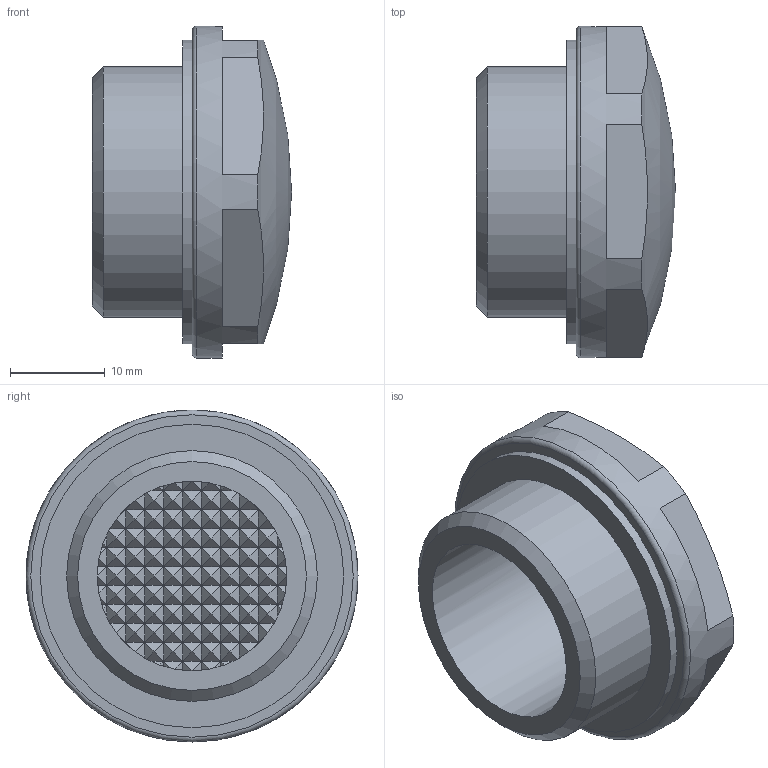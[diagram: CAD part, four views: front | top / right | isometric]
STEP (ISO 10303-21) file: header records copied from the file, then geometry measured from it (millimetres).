
FILE_DESCRIPTION( ( 'STEP AP203' ), '1' );
FILE_NAME( 'C:/Temp/Ganter_Step_05_03_2020/data/3_5/gn541_3/Prismatic-Oil level sight glass GN 541.3-20-G3_4.stp', '2020-03-12T13:43:45', ( 'License CC BY-ND 4.0' ), ( 'CADENAS' ), ' ', 'PARTsolutions', ' ' );
FILE_SCHEMA( ( 'CONFIG_CONTROL_DESIGN' ) );
Length unit declared in the file: millimetre
Products named in the file (1): _Prismatic-Oil level sight glass GN 541.3-20-G3/4
Bounding box: 21 x 35 x 35 mm (x, y, z)
Volume: 9182.1 mm3; surface area: 4646.8 mm2
Topology: 1 solids, 1 shells, 382 faces, 650 edges, 272 vertices
Faces by surface type: plane 375, cylinder 4, torus 1, cone 1, sphere 1
Full cylindrical faces by diameter (mm): 20 x1, 26.441 x1, 32 x1, 35 x1
Entity records: 8262 total; most frequent: DIRECTION 1520, CARTESIAN_POINT 1293, ORIENTED_EDGE 1280, EDGE_CURVE 640, LINE 526, VECTOR 526, AXIS2_PLACEMENT_3D 497, EDGE_LOOP 391
